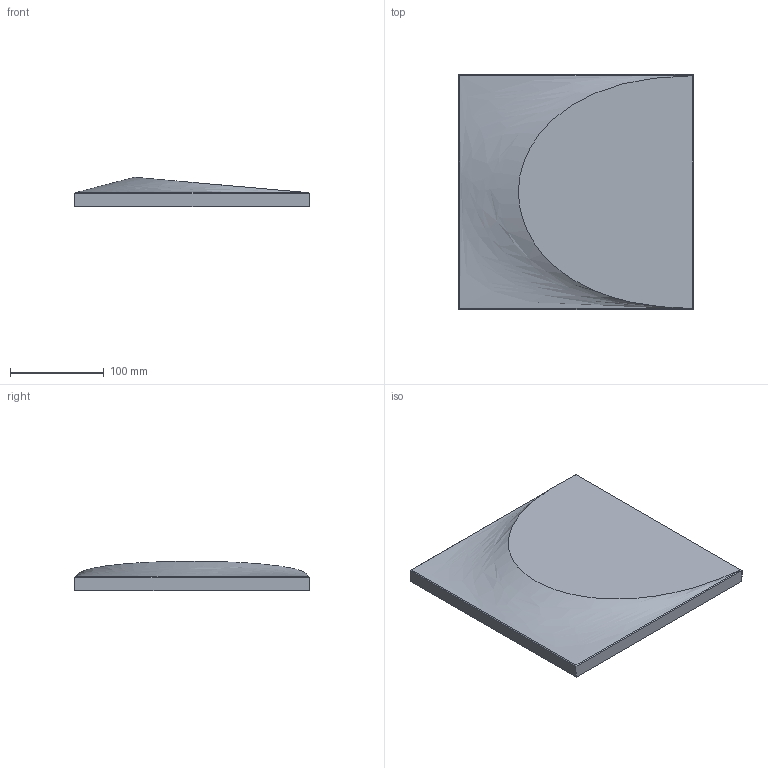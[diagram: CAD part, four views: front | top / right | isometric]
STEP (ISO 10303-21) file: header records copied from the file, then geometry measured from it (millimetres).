
FILE_DESCRIPTION(/* description */ (''),/* implementation_level */ '2;1');
FILE_NAME(/* name */ 'S03_ARCH',/* time_stamp */ '2023-08-21T16:41:34+02:00',/* author */ (''),/* organization */ (''),/* preprocessor_version */ 'ST-DEVELOPER v16.5',/* originating_system */ 'Rhino 7.30',/* authorisation */ '');
FILE_SCHEMA (('CONFIG_CONTROL_DESIGN'));
Length unit declared in the file: millimetre
Products named in the file (1): Document
Bounding box: 250 x 250.29 x 31.31 mm (x, y, z)
Surface area: 140635.7 mm2 (no closed solid volume)
Topology: 0 solids, 1 shells, 12 faces, 29 edges, 17 vertices
Faces by surface type: plane 9, bspline 3
Entity records: 1065 total; most frequent: CARTESIAN_POINT 786, ORIENTED_EDGE 48, EDGE_CURVE 28, B_SPLINE_CURVE_WITH_KNOTS 28, VERTEX_POINT 17, DIRECTION 13, ADVANCED_FACE 12, FACE_OUTER_BOUND 12
